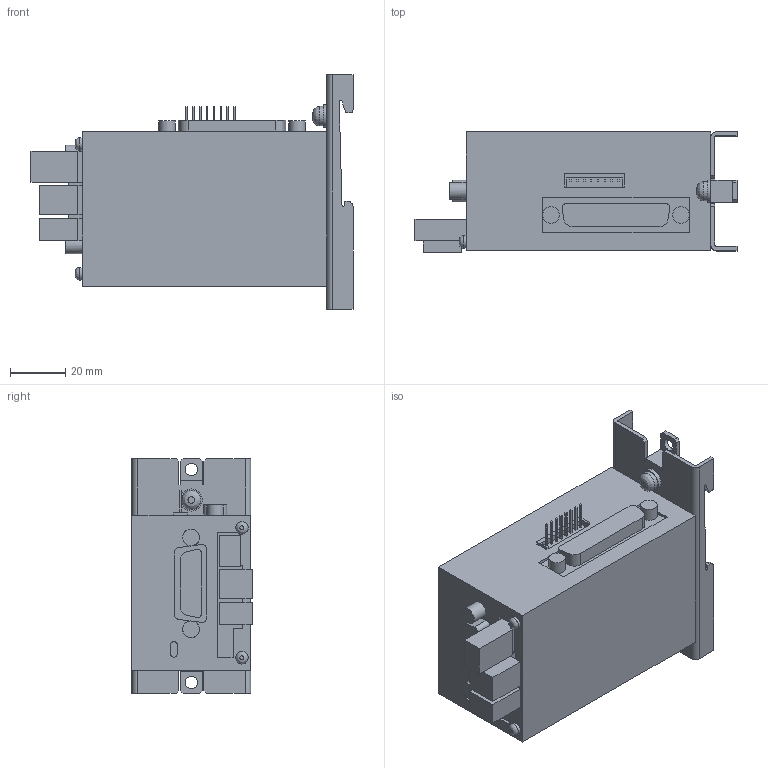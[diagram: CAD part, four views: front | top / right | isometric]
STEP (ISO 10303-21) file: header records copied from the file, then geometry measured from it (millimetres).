
FILE_DESCRIPTION((''),'2;1');
FILE_NAME('C:\Documents and Settings\abe\デスクトップ\oriental_3D\SCX10\SCX10.stp','2010-04-27T16:46:35',('abe'),(''),'Autodesk Inventor 11','Autodesk Inventor 11','');
FILE_SCHEMA(('AUTOMOTIVE_DESIGN { 1 0 10303 214 1 1 1 1 }'));
Length unit declared in the file: millimetre
Products named in the file (1): SCX10
Bounding box: 116.5 x 43.5 x 85 mm (x, y, z)
Volume: 227336.2 mm3; surface area: 32456.2 mm2
Topology: 1 solids, 1 shells, 233 faces, 603 edges, 391 vertices
Faces by surface type: plane 165, bspline 34, cylinder 34
Full cylindrical faces by diameter (mm): 4.5 x2, 6 x4, 7 x1, 8 x1
Entity records: 7096 total; most frequent: CARTESIAN_POINT 1565, ORIENTED_EDGE 1142, DIRECTION 1056, EDGE_CURVE 571, VECTOR 486, LINE 486, VERTEX_POINT 381, AXIS2_PLACEMENT_3D 285
